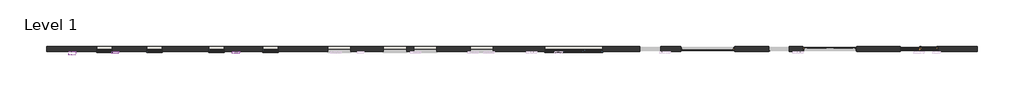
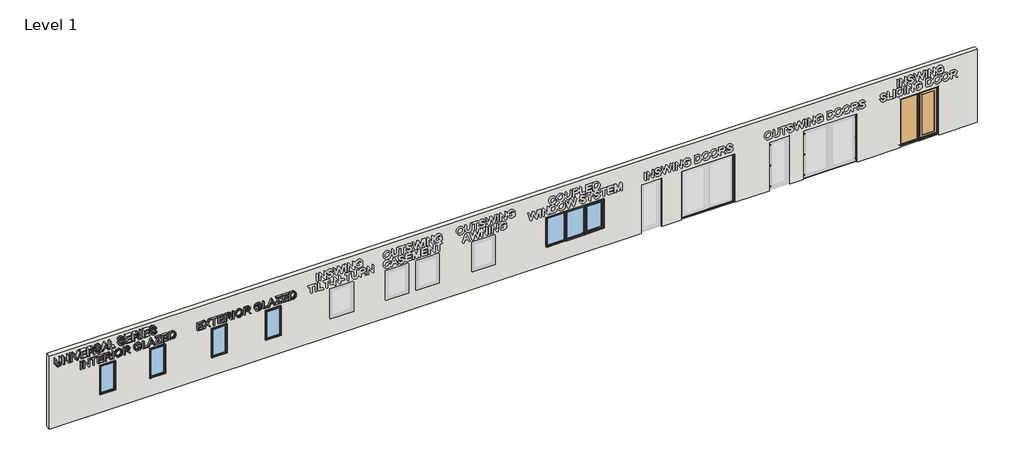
# One storey, part 1 of 4: 7 windows, 5 doors, 3 proxies, 1 wall.
"""IFC4 building model written with IfcOpenShell, lengths in millimetres."""

from ifc_helpers import new_model, si_unit, frame, origin, place, context, project, spatial, polyline, outline, extrude, transform, mapped, element, save
from components import double_door_frame_default_26f9a6da, universal_series_outswing_double_door_universal_double_door_7408c8ae, universal_series_outswing_single_door_a2d1e6a4, universal_series_sliding_door_7e6a51d2, universal_series_sliding_door_d04591d3, universal_series_sliding_door_3838186a, interior_glazed_black_34a4a2d6, universal_series_exterior_glazed_double_glazing_exterior_db7a54f3, universal_series_exterior_glazed_triple_glazing_exterior_8804a1f0, universal_series_interior_glazed_double_glazing_interior_bd5611e1, universal_series_interior_glazed_one_sided_coupler_interior_eb198598, universal_series_interior_glazed_triple_glazing_interior_81d28812, universal_series_interior_glazed_two_sided_coupler_interior_26a44fa0

model = new_model("IFC4")

# Units and contexts
model_context = context("Model", 3, world=origin())
ifc_project = project(units=[si_unit("LENGTHUNIT", "METRE", prefix="MILLI")], contexts=[model_context])

# Site, building, storey
site = spatial("IfcSite", under=ifc_project)
building = spatial("IfcBuilding", under=site)
storey = spatial("IfcBuildingStorey", under=building, Name="Level 1", Elevation=0.0)

# Proxies
placement = place(None, origin())
element("IfcBuildingElementProxy", 1, Name="600mm Arial", ObjectType="600mm Arial", at=placement, inside=storey, context=model_context, shape_type="SweptSolid", body=[
    extrude(outline(polyline([(2922.4101366, -22801.7087355), (2747.984752, -22801.7087355), (2700.3071968, -22805.8401248), (2683.3724946, -22811.8063287), (2671.0405095, -22820.1940216), (2662.2550166, -22831.4182146), (2655.959791, -22845.8939187), (2650.8401419, -22884.5998604), (2653.2931117, -22909.0338646), (2660.8149317, -22929.393801), (2673.0079357, -22945.0278173), (2689.4744578, -22955.2840613), (2713.2792011, -22960.9898965), (2747.4868687, -22962.9726866), (2921.8536788, -22962.9726866), (2921.8536788, -23001.5799447), (2746.0312964, -23001.5799447), (2702.8109784, -22998.0156296), (2669.8139275, -22989.2421434), (2645.2399934, -22973.7373337), (2627.2890255, -22950.5197183), (2616.3421312, -22919.5811753), (2612.7804181, -22880.9135827), (2617.1310746, -22841.405931), (2629.9139675, -22810.3266299), (2649.4097662, -22787.6146208), (2673.8991403, -22773.2088447), (2705.6083056, -22765.5546435), (2746.7634777, -22763.0973589), (2922.4687111, -22763.0973589), (2922.4101366, -22801.7087355)])), frame((0.0, 4073.3439366, 0.0), z_axis=(0.0, 1.0, 0.0), x_axis=(0.0, 0.0, 1.0)), (0.0, 0.0, 1.0), 152.4),
    extrude(outline(polyline([(2618.1080698, -22696.5456965), (2618.1080698, -22658.006394), (2859.5875495, -22658.006394), (2618.714865, -22498.8827378), (2618.714865, -22458.1351848), (2923.4059032, -22458.1351848), (2923.4059032, -22497.1430834), (2682.0007803, -22497.1430834), (2922.7991079, -22656.2667395), (2922.7991079, -22697.0142926), (2618.1080698, -22696.5456965)])), frame((0.0, 4073.3439366, 0.0), z_axis=(0.0, 1.0, 0.0), x_axis=(0.0, 0.0, 1.0)), (0.0, 0.0, 1.0), 152.4),
    extrude(outline(polyline([(2619.0599055, -22387.2212061), (2619.0599055, -22348.6819035), (2923.7427066, -22348.6819035), (2923.7427066, -22387.6898021), (2619.0599055, -22387.2212061)])), frame((0.0, 4073.3439366, 0.0), z_axis=(0.0, 1.0, 0.0), x_axis=(0.0, 0.0, 1.0)), (0.0, 0.0, 1.0), 152.4),
    extrude(outline(polyline([(2619.6882086, -22182.5687036), (2619.6882086, -22143.2339307), (2924.7320666, -22028.100082), (2924.7320666, -22068.8476351), (2704.9293057, -22149.518819), (2655.4321215, -22165.5764556), (2704.8288595, -22182.1614756), (2924.0062919, -22263.960006), (2924.0062919, -22304.707559), (2619.6882086, -22182.5687036)])), frame((0.0, 4073.3439366, 0.0), z_axis=(0.0, 1.0, 0.0), x_axis=(0.0, 0.0, 1.0)), (0.0, 0.0, 1.0), 152.4),
    extrude(outline(polyline([(2620.2753265, -21992.237626), (2620.2753265, -21768.1036292), (2659.0342834, -21768.1036292), (2659.0342834, -21953.8154724), (2758.3987866, -21953.8154724), (2758.3987866, -21782.8048093), (2796.9966637, -21782.8048093), (2796.9966637, -21954.2401376), (2886.8874211, -21954.2401376), (2886.8874211, -21773.6825106), (2925.5145854, -21773.6825106), (2925.5145854, -21992.706222), (2620.2753265, -21992.237626)])), frame((0.0, 4073.3439366, 0.0), z_axis=(0.0, 1.0, 0.0), x_axis=(0.0, 0.0, 1.0)), (0.0, 0.0, 1.0), 152.4),
    extrude(outline(polyline([(2621.1393004, -21711.4661654), (2621.1393004, -21672.9268629), (2754.5039222, -21672.9268629), (2754.5039222, -21627.3843519), (2753.3748571, -21605.2962494), (2746.1807787, -21587.1680481), (2726.5009276, -21566.9937723), (2684.8004692, -21538.2377962), (2621.7934587, -21498.411339), (2621.7934587, -21454.1690141), (2704.3094257, -21505.2087171), (2743.4005302, -21536.1873904), (2759.6180973, -21557.8753421), (2769.8274439, -21520.402667), (2777.9724176, -21505.8931524), (2788.1442584, -21494.2015197), (2813.0642446, -21478.8025364), (2843.0831065, -21473.7363535), (2867.193028, -21476.9242657), (2889.1088492, -21486.3328714), (2906.7609902, -21500.9426805), (2918.0798716, -21519.734203), (2924.1632285, -21545.4155727), (2926.1087963, -21580.6949236), (2926.1087963, -21711.9347615), (2621.1393004, -21711.4661654)]), holes=[polyline([(2792.705735, -21673.4540334), (2887.7513951, -21673.4540334), (2887.7513951, -21578.9419239), (2884.8455283, -21548.8079809), (2875.0385795, -21528.0041622), (2860.1114162, -21515.8844216), (2841.5531774, -21511.8027127), (2828.09739, -21513.8712028), (2815.6882029, -21520.1627047), (2805.4135713, -21530.5225562), (2798.3614502, -21544.7960953), (2794.2598651, -21563.7725341), (2792.8368412, -21588.2410848), (2792.705735, -21673.4540334)])]), frame((0.0, 4073.3439366, 0.0), z_axis=(0.0, 1.0, 0.0), x_axis=(0.0, 0.0, 1.0)), (0.0, 0.0, 1.0), 152.4),
    extrude(outline(polyline([(2726.7855791, -21421.030592), (2695.9943476, -21416.4188019), (2668.6305152, -21404.4188016), (2646.1946843, -21385.7882592), (2630.2460322, -21361.2848428), (2620.7484673, -21330.5552428), (2617.6658979, -21293.24615), (2620.7243734, -21262.8712063), (2629.7030261, -21235.6932653), (2644.011977, -21213.1140106), (2663.0613473, -21196.5351258), (2685.1675263, -21186.3696915), (2708.6469032, -21183.0307882), (2731.5954565, -21186.0664116), (2751.6630239, -21195.0231846), (2768.6627407, -21210.2165518), (2782.4077424, -21231.9619579), (2791.2338375, -21257.3822213), (2801.3101536, -21299.3880661), (2811.929561, -21340.0943248), (2822.38493, -21361.6158302), (2834.1239297, -21370.7421637), (2848.7443158, -21373.8172229), (2865.915315, -21369.5945013), (2880.398602, -21356.8123906), (2890.2819476, -21334.6656629), (2893.6531227, -21302.3490905), (2890.4414285, -21270.7558371), (2880.5848613, -21247.9535065), (2864.2340222, -21233.3291123), (2841.5395128, -21226.2696681), (2841.5395128, -21188.1989616), (2866.8690091, -21192.5706923), (2889.272954, -21203.4400669), (2907.716709, -21220.5618794), (2921.0484865, -21243.6909233), (2929.1040725, -21271.8228664), (2931.719253, -21303.9533765), (2929.0348213, -21333.5951902), (2921.1728084, -21360.3583061), (2908.3147598, -21382.6353005), (2890.642221, -21398.8187502), (2869.8197273, -21408.6535256), (2847.511814, -21411.8844974), (2827.5737978, -21409.155568), (2809.6970118, -21401.097827), (2794.2163479, -21387.6193578), (2781.4666978, -21368.6282441), (2772.3831559, -21345.317084), (2762.8752109, -21308.8990993), (2748.5090223, -21253.4213369), (2740.667896, -21237.1500834), (2731.3006797, -21227.4919561), (2720.3011579, -21222.717815), (2707.5631151, -21221.0985202), (2694.479112, -21223.1681544), (2681.9955681, -21229.4594274), (2671.1067202, -21240.0683456), (2662.8068052, -21255.0909153), (2657.5353868, -21273.6454932), (2655.7320283, -21294.8504359), (2657.9536627, -21318.9491193), (2664.7746118, -21340.5337986), (2675.3347676, -21358.2076231), (2688.7740217, -21370.573742), (2705.7309563, -21378.5264109), (2726.8441536, -21382.9598855), (2726.7855791, -21421.030592)])), frame((0.0, 4073.3439366, 0.0), z_axis=(0.0, 1.0, 0.0), x_axis=(0.0, 0.0, 1.0)), (0.0, 0.0, 1.0), 152.4),
    extrude(outline(polyline([(2622.8313257, -21161.1286735), (2622.8313257, -21120.9016184), (2718.2389579, -21086.3954857), (2718.2389579, -20960.955482), (2623.5554988, -20925.7892475), (2623.5554988, -20885.5621923), (2927.8708364, -21008.072832), (2927.8708364, -21040.492418), (2622.8313257, -21161.1286735)]), holes=[polyline([(2756.5027773, -21072.5335472), (2837.8651808, -21042.9669942), (2889.7502501, -21024.165476), (2831.4457914, -21002.6454472), (2756.6528744, -20974.9773617), (2756.5027773, -21072.5335472)])]), frame((0.0, 4073.3439366, 0.0), z_axis=(0.0, 1.0, 0.0), x_axis=(0.0, 0.0, 1.0)), (0.0, 0.0, 1.0), 152.4),
    extrude(outline(polyline([(2623.8044404, -20845.3575922), (2623.8044404, -20654.5354635), (2662.460892, -20654.5354635), (2662.460892, -20806.9354386), (2928.4872416, -20806.9354386), (2928.4872416, -20845.8261882), (2623.8044404, -20845.3575922)])), frame((0.0, 4073.3439366, 0.0), z_axis=(0.0, 1.0, 0.0), x_axis=(0.0, 0.0, 1.0)), (0.0, 0.0, 1.0), 152.4),
    extrude(outline(polyline([(2729.5971553, -20507.3336356), (2698.8059239, -20502.7218455), (2671.4420915, -20490.7218452), (2649.0062606, -20472.0913028), (2633.0576085, -20447.5878864), (2623.5600436, -20416.8582864), (2620.4774742, -20379.5491935), (2623.5359497, -20349.1742499), (2632.5146023, -20321.9963089), (2646.8235533, -20299.4170542), (2665.8729236, -20282.8381694), (2687.9791026, -20272.6727351), (2711.4584794, -20269.3338318), (2734.4070328, -20272.3694551), (2754.4746002, -20281.3262282), (2771.474317, -20296.5195954), (2785.2193187, -20318.2650015), (2794.0454138, -20343.6852649), (2804.1217299, -20385.6911097), (2814.7411373, -20426.3973684), (2825.1965063, -20447.9188738), (2836.935506, -20457.0452072), (2851.5558921, -20460.1202665), (2868.7268913, -20455.8975449), (2883.2101783, -20443.1154342), (2893.0935239, -20420.9687065), (2896.4646989, -20388.6521341), (2893.2530048, -20357.0588807), (2883.3964375, -20334.2565501), (2867.0455985, -20319.6321559), (2844.3510891, -20312.5727117), (2844.3510891, -20274.5020052), (2869.6805854, -20278.8737359), (2892.0845303, -20289.7431105), (2910.5282853, -20306.864923), (2923.8600628, -20329.9939669), (2931.9156488, -20358.12591), (2934.5308293, -20390.2564201), (2931.8463976, -20419.8982338), (2923.9843847, -20446.6613497), (2911.1263361, -20468.9383441), (2893.4537973, -20485.1217938), (2872.6313036, -20494.9565692), (2850.3233903, -20498.187541), (2830.3853741, -20495.4586116), (2812.5085881, -20487.4008706), (2797.0279242, -20473.9224014), (2784.2782741, -20454.9312877), (2775.1947322, -20431.6201276), (2765.6867871, -20395.2021429), (2751.3205986, -20339.7243805), (2743.4794723, -20323.453127), (2734.112256, -20313.7949996), (2723.1127342, -20309.0208586), (2710.3746914, -20307.4015638), (2697.2906883, -20309.471198), (2684.8071443, -20315.762471), (2673.9182965, -20326.3713892), (2665.6183815, -20341.3939589), (2660.346963, -20359.9485368), (2658.5436046, -20381.1534795), (2660.7652389, -20405.2521629), (2667.5861881, -20426.8368422), (2678.1463439, -20444.5106667), (2691.585598, -20456.8767856), (2708.5425326, -20464.8294545), (2729.6557298, -20469.2629291), (2729.5971553, -20507.3336356)])), frame((0.0, 4073.3439366, 0.0), z_axis=(0.0, 1.0, 0.0), x_axis=(0.0, 0.0, 1.0)), (0.0, 0.0, 1.0), 152.4),
    extrude(outline(polyline([(2625.7520428, -20212.4320963), (2625.7520428, -19988.2980995), (2664.5109997, -19988.2980995), (2664.5109997, -20174.0099428), (2763.8755029, -20174.0099428), (2763.8755029, -20002.9992796), (2802.47338, -20002.9992796), (2802.47338, -20174.4346079), (2892.3641374, -20174.4346079), (2892.3641374, -19993.8769809), (2930.9913017, -19993.8769809), (2930.9913017, -20212.9006924), (2625.7520428, -20212.4320963)])), frame((0.0, 4073.3439366, 0.0), z_axis=(0.0, 1.0, 0.0), x_axis=(0.0, 0.0, 1.0)), (0.0, 0.0, 1.0), 152.4),
    extrude(outline(polyline([(2626.6160167, -19931.6606358), (2626.6160167, -19893.1213332), (2759.9806385, -19893.1213332), (2759.9806385, -19847.5788223), (2758.8515734, -19825.4907197), (2751.657495, -19807.3625184), (2731.9776439, -19787.1882427), (2690.2771855, -19758.4322666), (2627.270175, -19718.6058094), (2627.270175, -19674.3634844), (2709.786142, -19725.4031875), (2748.8772465, -19756.3818608), (2765.0948136, -19778.0698124), (2775.3041602, -19740.5971373), (2783.4491339, -19726.0876227), (2793.6209747, -19714.39599), (2818.5409609, -19698.9970067), (2848.5598228, -19693.9308238), (2872.6697443, -19697.118736), (2894.5855655, -19706.5273417), (2912.2377065, -19721.1371508), (2923.5565879, -19739.9286733), (2929.6399448, -19765.610043), (2931.5855126, -19800.8893939), (2931.5855126, -19932.1292318), (2626.6160167, -19931.6606358)]), holes=[polyline([(2798.1824513, -19893.6485038), (2893.2281113, -19893.6485038), (2893.2281113, -19799.1363942), (2890.3222446, -19769.0024512), (2880.5152958, -19748.1986325), (2865.5881325, -19736.0788919), (2847.0298937, -19731.997183), (2833.5741063, -19734.0656732), (2821.1649192, -19740.357175), (2810.8902876, -19750.7170265), (2803.8381665, -19764.9905656), (2799.7365814, -19783.9670045), (2798.3135575, -19808.4355552), (2798.1824513, -19893.6485038)])]), frame((0.0, 4073.3439366, 0.0), z_axis=(0.0, 1.0, 0.0), x_axis=(0.0, 0.0, 1.0)), (0.0, 0.0, 1.0), 152.4),
    extrude(outline(polyline([(2627.5678524, -19622.3361453), (2627.5678524, -19583.7968428), (2932.2506536, -19583.7968428), (2932.2506536, -19622.8047414), (2627.5678524, -19622.3361453)])), frame((0.0, 4073.3439366, 0.0), z_axis=(0.0, 1.0, 0.0), x_axis=(0.0, 0.0, 1.0)), (0.0, 0.0, 1.0), 152.4),
    extrude(outline(polyline([(2627.9192995, -19508.1240258), (2627.9192995, -19283.9900289), (2666.6782564, -19283.9900289), (2666.6782564, -19469.7018722), (2766.0427596, -19469.7018722), (2766.0427596, -19298.691209), (2804.6406367, -19298.691209), (2804.6406367, -19470.1265374), (2894.5313941, -19470.1265374), (2894.5313941, -19289.5689103), (2933.1585584, -19289.5689103), (2933.1585584, -19508.5926218), (2627.9192995, -19508.1240258)])), frame((0.0, 4073.3439366, 0.0), z_axis=(0.0, 1.0, 0.0), x_axis=(0.0, 0.0, 1.0)), (0.0, 0.0, 1.0), 152.4),
    extrude(outline(polyline([(2733.49236, -19241.4826439), (2702.7011286, -19236.8708538), (2675.3372961, -19224.8708535), (2652.9014652, -19206.2403112), (2636.9528131, -19181.7368947), (2627.4552482, -19151.0072948), (2624.3726789, -19113.6982019), (2627.4311543, -19083.3232582), (2636.409807, -19056.1453172), (2650.7187579, -19033.5660625), (2669.7681283, -19016.9871777), (2691.8743072, -19006.8217434), (2715.3536841, -19003.4828401), (2738.3022374, -19006.5184635), (2758.3698048, -19015.4752365), (2775.3695216, -19030.6686037), (2789.1145233, -19052.4140098), (2797.9406184, -19077.8342732), (2808.0169346, -19119.840118), (2818.6363419, -19160.5463768), (2829.0917109, -19182.0678822), (2840.8307106, -19191.1942156), (2855.4510967, -19194.2692749), (2872.6220959, -19190.0465532), (2887.1053829, -19177.2644425), (2896.9887285, -19155.1177149), (2900.3599036, -19122.8011424), (2897.1482094, -19091.207889), (2887.2916422, -19068.4055584), (2870.9408031, -19053.7811642), (2848.2462937, -19046.72172), (2848.2462937, -19008.6510135), (2873.57579, -19013.0227442), (2895.979735, -19023.8921189), (2914.4234899, -19041.0139313), (2927.7552674, -19064.1429752), (2935.8108534, -19092.2749183), (2938.4260339, -19124.4054284), (2935.7416022, -19154.0472422), (2927.8795893, -19180.810358), (2915.0215407, -19203.0873524), (2897.3490019, -19219.2708021), (2876.5265082, -19229.1055775), (2854.218595, -19232.3365493), (2834.2805787, -19229.6076199), (2816.4037927, -19221.5498789), (2800.9231288, -19208.0714097), (2788.1734787, -19189.080296), (2779.0899368, -19165.7691359), (2769.5819918, -19129.3511512), (2755.2158032, -19073.8733888), (2747.3746769, -19057.6021353), (2738.0074606, -19047.944008), (2727.0079388, -19043.1698669), (2714.269896, -19041.5505721), (2701.1858929, -19043.6202063), (2688.702349, -19049.9114793), (2677.8135011, -19060.5203975), (2669.5135862, -19075.5429672), (2664.2421677, -19094.0975451), (2662.4388092, -19115.3024878), (2664.6604436, -19139.4011712), (2671.4813928, -19160.9858505), (2682.0415485, -19178.659675), (2695.4808026, -19191.0257939), (2712.4377372, -19198.9784628), (2733.5509345, -19203.4119374), (2733.49236, -19241.4826439)])), frame((0.0, 4073.3439366, 0.0), z_axis=(0.0, 1.0, 0.0), x_axis=(0.0, 0.0, 1.0)), (0.0, 0.0, 1.0), 152.4),
])
element("IfcBuildingElementProxy", 2, Name="600mm Arial", ObjectType="600mm Arial", at=placement, inside=storey, context=model_context, shape_type="SweptSolid", body=[
    extrude(outline(polyline([(2116.1273005, -21969.0309154), (2116.1273005, -21930.4916129), (2420.8101017, -21930.4916129), (2420.8101017, -21969.4995115), (2116.1273005, -21969.0309154)])), frame((0.0, 4149.5439366, 0.0), z_axis=(0.0, 1.0, 0.0), x_axis=(0.0, 0.0, 1.0)), (0.0, 0.0, 1.0), 76.2),
    extrude(outline(polyline([(2116.4787475, -21854.8187959), (2116.4787475, -21816.2794933), (2357.9582273, -21816.2794933), (2117.0855428, -21657.1558372), (2117.0855428, -21616.4082841), (2421.776581, -21616.4082841), (2421.776581, -21655.4161827), (2180.3714581, -21655.4161827), (2421.1697857, -21814.5398389), (2421.1697857, -21855.2873919), (2116.4787475, -21854.8187959)])), frame((0.0, 4149.5439366, 0.0), z_axis=(0.0, 1.0, 0.0), x_axis=(0.0, 0.0, 1.0)), (0.0, 0.0, 1.0), 76.2),
    extrude(outline(polyline([(2117.6502377, -21474.0531562), (2117.6502377, -21435.5724282), (2384.2623323, -21435.5724282), (2384.2623323, -21336.4568666), (2422.640555, -21336.4568666), (2422.640555, -21574.5159314), (2383.8376671, -21574.5159314), (2383.8376671, -21474.4631778), (2117.6502377, -21474.0531562)])), frame((0.0, 4149.5439366, 0.0), z_axis=(0.0, 1.0, 0.0), x_axis=(0.0, 0.0, 1.0)), (0.0, 0.0, 1.0), 76.2),
    extrude(outline(polyline([(2118.2066955, -21293.2758748), (2118.2066955, -21069.1418779), (2156.9656524, -21069.1418779), (2156.9656524, -21254.8537212), (2256.3301556, -21254.8537212), (2256.3301556, -21083.8430581), (2294.9280327, -21083.8430581), (2294.9280327, -21255.2783864), (2384.8187901, -21255.2783864), (2384.8187901, -21074.7207593), (2423.4459544, -21074.7207593), (2423.4459544, -21293.7444708), (2118.2066955, -21293.2758748)])), frame((0.0, 4149.5439366, 0.0), z_axis=(0.0, 1.0, 0.0), x_axis=(0.0, 0.0, 1.0)), (0.0, 0.0, 1.0), 76.2),
    extrude(outline(polyline([(2119.0706694, -21012.5044142), (2119.0706694, -20973.9651117), (2252.4352912, -20973.9651117), (2252.4352912, -20928.4226007), (2251.3062261, -20906.3344981), (2244.1121477, -20888.2062968), (2224.4322966, -20868.0320211), (2182.7318382, -20839.276045), (2119.7248277, -20799.4495878), (2119.7248277, -20755.2072629), (2202.2407947, -20806.2469659), (2241.3318992, -20837.2256392), (2257.5494663, -20858.9135908), (2267.7588129, -20821.4409158), (2275.9037866, -20806.9314012), (2286.0756274, -20795.2397684), (2310.9956136, -20779.8407851), (2341.0144755, -20774.7746023), (2365.124397, -20777.9625145), (2387.0402182, -20787.3711201), (2404.6923592, -20801.9809293), (2416.0112406, -20820.7724517), (2422.0945975, -20846.4538215), (2424.0401653, -20881.7331724), (2424.0401653, -21012.9730103), (2119.0706694, -21012.5044142)]), holes=[polyline([(2290.637104, -20974.4922822), (2385.6827641, -20974.4922822), (2385.6827641, -20879.9801727), (2382.7768973, -20849.8462297), (2372.9699485, -20829.042411), (2358.0427852, -20816.9226703), (2339.4845464, -20812.8409615), (2326.028759, -20814.9094516), (2313.6195719, -20821.2009535), (2303.3449403, -20831.5608049), (2296.2928192, -20845.8343441), (2292.1912341, -20864.8107829), (2290.7682102, -20889.2793336), (2290.637104, -20974.4922822)])]), frame((0.0, 4149.5439366, 0.0), z_axis=(0.0, 1.0, 0.0), x_axis=(0.0, 0.0, 1.0)), (0.0, 0.0, 1.0), 76.2),
    extrude(outline(polyline([(2120.0225051, -20703.1799238), (2120.0225051, -20664.6406212), (2424.7053063, -20664.6406212), (2424.7053063, -20703.6485198), (2120.0225051, -20703.1799238)])), frame((0.0, 4149.5439366, 0.0), z_axis=(0.0, 1.0, 0.0), x_axis=(0.0, 0.0, 1.0)), (0.0, 0.0, 1.0), 76.2),
    extrude(outline(polyline([(2268.5975775, -20603.2319636), (2229.6572686, -20598.7622219), (2192.8443111, -20585.5991926), (2160.8812236, -20564.0115049), (2136.4905251, -20534.2677877), (2121.0700951, -20498.1941025), (2116.0178136, -20457.6165109), (2120.8198731, -20419.4208001), (2134.9826013, -20383.9493547), (2158.2379411, -20353.7388014), (2190.3178357, -20331.3257667), (2229.2308654, -20317.4755824), (2272.9856106, -20312.9535803), (2316.1361473, -20317.5106351), (2354.4262608, -20330.9012824), (2386.314305, -20352.7118119), (2410.2586336, -20382.5285131), (2425.2056679, -20418.3962583), (2430.1018288, -20458.3599197), (2427.3354327, -20488.9634821), (2419.2337046, -20516.6042089), (2405.7966444, -20541.2821001), (2387.0242522, -20562.9971556), (2363.5425414, -20580.6870595), (2335.9775253, -20593.2894954), (2304.329204, -20600.8044634), (2268.5975775, -20603.2319636)]), holes=[polyline([(2268.3429423, -20565.160113), (2299.2094644, -20563.2706766), (2325.3340081, -20557.397814), (2346.7165733, -20547.5415252), (2363.3571601, -20533.7018104), (2375.8515238, -20517.0981075), (2384.7954198, -20498.9498549), (2390.1888481, -20479.2570524), (2392.0318087, -20458.0197001), (2388.4325433, -20428.5351497), (2377.4439224, -20402.0951102), (2359.7306959, -20380.1515995), (2335.9576138, -20364.1566354), (2306.8581776, -20354.3634316), (2273.165889, -20351.0252021), (2246.34049, -20352.831803), (2222.7472824, -20358.4266431), (2202.386266, -20367.8097222), (2185.2574408, -20380.9810404), (2171.6747933, -20397.0910993), (2161.9523096, -20415.2904006), (2156.0899897, -20435.5789443), (2154.0878337, -20457.9567304), (2155.9348029, -20479.9699258), (2161.6171131, -20500.0569793), (2171.1347643, -20518.2178909), (2184.4877565, -20534.4526608), (2201.1817026, -20547.8256508), (2220.7222156, -20557.4012228), (2243.1092955, -20563.1793769), (2268.3429423, -20565.160113)])]), frame((0.0, 4149.5439366, 0.0), z_axis=(0.0, 1.0, 0.0), x_axis=(0.0, 0.0, 1.0)), (0.0, 0.0, 1.0), 76.2),
    extrude(outline(polyline([(2121.3843624, -20260.6079605), (2121.3843624, -20222.0686579), (2254.7489842, -20222.0686579), (2254.7489842, -20176.526147), (2253.619919, -20154.4380444), (2246.4258407, -20136.3098431), (2226.7459896, -20116.1355674), (2185.0455312, -20087.3795913), (2122.0385206, -20047.5531341), (2122.0385206, -20003.3108092), (2204.5544877, -20054.3505122), (2243.6455922, -20085.3291855), (2259.8631593, -20107.0171371), (2270.0725058, -20069.5444621), (2278.2174796, -20055.0349475), (2288.3893203, -20043.3433147), (2313.3093066, -20027.9443314), (2343.3281685, -20022.8781486), (2367.43809, -20026.0660608), (2389.3539111, -20035.4746664), (2407.0060522, -20050.0844755), (2418.3249336, -20068.875998), (2424.4082905, -20094.5573678), (2426.3538583, -20129.8367187), (2426.3538583, -20261.0765566), (2121.3843624, -20260.6079605)]), holes=[polyline([(2292.950797, -20222.5958285), (2387.996457, -20222.5958285), (2387.996457, -20128.083719), (2385.0905903, -20097.949776), (2375.2836415, -20077.1459573), (2360.3564782, -20065.0262166), (2341.7982394, -20060.9445077), (2328.342452, -20063.0129979), (2315.9332649, -20069.3044998), (2305.6586333, -20079.6643512), (2298.6065122, -20093.9378904), (2294.504927, -20112.9143292), (2293.0819032, -20137.3828799), (2292.950797, -20222.5958285)])]), frame((0.0, 4149.5439366, 0.0), z_axis=(0.0, 1.0, 0.0), x_axis=(0.0, 0.0, 1.0)), (0.0, 0.0, 1.0), 76.2),
    extrude(outline(polyline([(2242.0979118, -19694.2622702), (2242.0979118, -19608.544606), (2187.3374291, -19608.544606), (2176.5336614, -19624.5612855), (2166.3616968, -19646.8651349), (2158.9491141, -19672.5607438), (2156.4234921, -19698.9220193), (2159.5754151, -19728.7955703), (2169.2201786, -19756.9974664), (2185.5603768, -19781.1210052), (2208.798604, -19798.7594844), (2238.7220855, -19809.5869349), (2275.1180462, -19813.2773877), (2306.1711828, -19810.3986406), (2334.9375616, -19801.5642525), (2364.3316289, -19782.0614871), (2376.440931, -19767.5060794), (2385.9971628, -19748.9646865), (2392.2286149, -19726.518586), (2394.3635774, -19700.2490554), (2392.5272541, -19677.7967185), (2386.8736786, -19657.4332363), (2378.0405463, -19640.3409971), (2366.6655528, -19627.7023895), (2351.5539553, -19618.1288275), (2331.5110113, -19610.2317253), (2341.5084689, -19575.1657241), (2369.6134109, -19584.9465729), (2391.8144182, -19598.3341852), (2408.9354505, -19616.3906915), (2421.800467, -19640.1782225), (2429.8278832, -19668.4030258), (2432.4361143, -19699.7713496), (2427.6387727, -19742.4750015), (2413.5258918, -19779.870602), (2402.9098322, -19796.2221569), (2389.832304, -19810.5352468), (2356.2928416, -19833.0460318), (2316.3482823, -19846.8372737), (2273.4394034, -19851.3432893), (2230.8658473, -19846.5556427), (2192.5221112, -19832.4677283), (2160.5918842, -19809.2628649), (2137.2588551, -19777.1243712), (2123.017468, -19738.4796838), (2118.3621667, -19695.7562395), (2121.4742082, -19663.0763765), (2130.6066947, -19631.2143831), (2145.7036299, -19600.2444443), (2166.7090173, -19570.2407455), (2280.5493526, -19570.2407455), (2280.5493526, -19694.3208447), (2242.0979118, -19694.2622702)])), frame((0.0, 4149.5439366, 0.0), z_axis=(0.0, 1.0, 0.0), x_axis=(0.0, 0.0, 1.0)), (0.0, 0.0, 1.0), 76.2),
    extrude(outline(polyline([(2123.6980554, -19508.7115068), (2123.6980554, -19317.8893782), (2162.354507, -19317.8893782), (2162.354507, -19470.2893532), (2428.3808565, -19470.2893532), (2428.3808565, -19509.1801028), (2123.6980554, -19508.7115068)])), frame((0.0, 4149.5439366, 0.0), z_axis=(0.0, 1.0, 0.0), x_axis=(0.0, 0.0, 1.0)), (0.0, 0.0, 1.0), 76.2),
    extrude(outline(polyline([(2124.3064523, -19310.5280502), (2124.3064523, -19270.300995), (2219.7140845, -19235.7948624), (2219.7140845, -19110.3548587), (2125.0306254, -19075.1886241), (2125.0306254, -19034.961569), (2429.345963, -19157.4722087), (2429.345963, -19189.8917947), (2124.3064523, -19310.5280502)]), holes=[polyline([(2257.9779039, -19221.9329238), (2339.3403074, -19192.3663708), (2391.2253767, -19173.5648527), (2332.920918, -19152.0448239), (2258.128001, -19124.3767384), (2257.9779039, -19221.9329238)])]), frame((0.0, 4149.5439366, 0.0), z_axis=(0.0, 1.0, 0.0), x_axis=(0.0, 0.0, 1.0)), (0.0, 0.0, 1.0), 76.2),
    extrude(outline(polyline([(2125.2063489, -19018.1433125), (2125.2063489, -18780.1406486), (2164.0092367, -18780.1406486), (2164.0092367, -18971.5779692), (2183.1745043, -18955.5775237), (2392.4188322, -18785.71953), (2430.4895387, -18785.71953), (2430.4895387, -18999.9844032), (2391.759869, -18999.9844032), (2391.759869, -18833.5309837), (2355.8945023, -18863.0133518), (2164.6898355, -19018.2040607), (2125.2063489, -19018.1433125)])), frame((0.0, 4149.5439366, 0.0), z_axis=(0.0, 1.0, 0.0), x_axis=(0.0, 0.0, 1.0)), (0.0, 0.0, 1.0), 76.2),
    extrude(outline(polyline([(2126.0703229, -18737.7796998), (2126.0703229, -18513.645703), (2164.8292798, -18513.645703), (2164.8292798, -18699.3575463), (2264.193783, -18699.3575463), (2264.193783, -18528.3468831), (2302.7916601, -18528.3468831), (2302.7916601, -18699.7822114), (2392.6824175, -18699.7822114), (2392.6824175, -18519.2245844), (2431.3095818, -18519.2245844), (2431.3095818, -18738.2482959), (2126.0703229, -18737.7796998)])), frame((0.0, 4149.5439366, 0.0), z_axis=(0.0, 1.0, 0.0), x_axis=(0.0, 0.0, 1.0)), (0.0, 0.0, 1.0), 76.2),
    extrude(outline(polyline([(2126.9342968, -18457.0082393), (2126.9342968, -18346.4171504), (2132.6288081, -18297.469182), (2139.1121577, -18277.7379072), (2148.0211413, -18261.1185243), (2160.0093275, -18246.6556909), (2175.7302843, -18233.3940646), (2195.628437, -18221.8926946), (2220.1482104, -18212.7106301), (2248.9337212, -18206.7204773), (2281.6290858, -18204.7948423), (2320.0995455, -18207.906113), (2354.0158185, -18216.9891527), (2382.820114, -18232.0794239), (2405.9546413, -18253.2123889), (2419.2200702, -18273.7387143), (2427.6034564, -18298.0422522), (2431.8232528, -18352.4106082), (2431.8232528, -18457.4768353), (2126.9342968, -18457.0082393)]), holes=[polyline([(2165.2258018, -18418.5860857), (2393.5463915, -18418.5860857), (2393.5463915, -18352.9626708), (2392.3249017, -18320.873), (2387.819339, -18298.9608365), (2375.1705288, -18277.4046975), (2354.1829405, -18259.3362932), (2323.5854145, -18247.0567963), (2282.1067915, -18242.8673793), (2250.7868857, -18244.8437203), (2224.4919003, -18250.9809572), (2203.1302051, -18260.8512522), (2186.6101695, -18274.0267674), (2177.6680694, -18286.3054262), (2170.9826416, -18302.2345493), (2166.7907982, -18323.3577847), (2165.3294512, -18351.2187808), (2165.2258018, -18418.5860857)])]), frame((0.0, 4149.5439366, 0.0), z_axis=(0.0, 1.0, 0.0), x_axis=(0.0, 0.0, 1.0)), (0.0, 0.0, 1.0), 76.2),
])
element("IfcBuildingElementProxy", 3, Name="600mm Arial", ObjectType="600mm Arial", at=placement, inside=storey, context=model_context, shape_type="SweptSolid", body=[
    extrude(outline(polyline([(2116.1126569, -17350.9897538), (2116.1126569, -17126.8557569), (2154.8716138, -17126.8557569), (2154.8716138, -17312.5676002), (2254.236117, -17312.5676002), (2254.236117, -17141.556937), (2292.8339941, -17141.556937), (2292.8339941, -17312.9922654), (2382.7247515, -17312.9922654), (2382.7247515, -17132.4346383), (2421.3519158, -17132.4346383), (2421.3519158, -17351.4583498), (2116.1126569, -17350.9897538)])), frame((0.0, 4149.5439366, 0.0), z_axis=(0.0, 1.0, 0.0), x_axis=(0.0, 0.0, 1.0)), (0.0, 0.0, 1.0), 76.2),
    extrude(outline(polyline([(2116.8741255, -17103.0615654), (2116.8741255, -17056.7372486), (2225.3665144, -16980.7054499), (2250.5542717, -16962.8627861), (2227.7024709, -16946.5081638), (2117.5976121, -16867.9452099), (2117.5976121, -16822.2901048), (2282.8951588, -16940.2088925), (2422.245177, -16842.2626501), (2422.245177, -16888.5869669), (2344.4541637, -16943.1495478), (2313.4544455, -16964.9152777), (2343.8089661, -16983.6724287), (2421.6388394, -17039.3082991), (2421.6388394, -17084.9634042), (2283.1998974, -16986.1627978), (2116.8741255, -17103.0615654)])), frame((0.0, 4149.5439366, 0.0), z_axis=(0.0, 1.0, 0.0), x_axis=(0.0, 0.0, 1.0)), (0.0, 0.0, 1.0), 76.2),
    extrude(outline(polyline([(2118.0895464, -16708.4880068), (2118.0895464, -16670.0072787), (2384.7016411, -16670.0072787), (2384.7016411, -16570.8917172), (2423.0798638, -16570.8917172), (2423.0798638, -16808.9507819), (2384.2769759, -16808.9507819), (2384.2769759, -16708.8980283), (2118.0895464, -16708.4880068)])), frame((0.0, 4149.5439366, 0.0), z_axis=(0.0, 1.0, 0.0), x_axis=(0.0, 0.0, 1.0)), (0.0, 0.0, 1.0), 76.2),
    extrude(outline(polyline([(2118.6460043, -16527.7107253), (2118.6460043, -16303.5767285), (2157.4049612, -16303.5767285), (2157.4049612, -16489.2885718), (2256.7694644, -16489.2885718), (2256.7694644, -16318.2779086), (2295.3673415, -16318.2779086), (2295.3673415, -16489.713237), (2385.2580989, -16489.713237), (2385.2580989, -16309.1556099), (2423.8852632, -16309.1556099), (2423.8852632, -16528.1793214), (2118.6460043, -16527.7107253)])), frame((0.0, 4149.5439366, 0.0), z_axis=(0.0, 1.0, 0.0), x_axis=(0.0, 0.0, 1.0)), (0.0, 0.0, 1.0), 76.2),
    extrude(outline(polyline([(2119.5099782, -16246.9392648), (2119.5099782, -16208.3999622), (2252.8746, -16208.3999622), (2252.8746, -16162.8574513), (2251.7455349, -16140.7693487), (2244.5514565, -16122.6411474), (2224.8716054, -16102.4668717), (2183.171147, -16073.7108956), (2120.1641365, -16033.8844384), (2120.1641365, -15989.6421134), (2202.6801035, -16040.6818165), (2241.771208, -16071.6604898), (2257.9887751, -16093.3484414), (2268.1981217, -16055.8757664), (2276.3430954, -16041.3662517), (2286.5149362, -16029.674619), (2311.4349224, -16014.2756357), (2341.4537843, -16009.2094528), (2365.5637058, -16012.397365), (2387.4795269, -16021.8059707), (2405.131668, -16036.4157798), (2416.4505494, -16055.2073023), (2422.5339063, -16080.8886721), (2424.4794741, -16116.1680229), (2424.4794741, -16247.4078608), (2119.5099782, -16246.9392648)]), holes=[polyline([(2291.0764128, -16208.9271328), (2386.1220728, -16208.9271328), (2386.1220728, -16114.4150232), (2383.2162061, -16084.2810802), (2373.4092573, -16063.4772616), (2358.482094, -16051.3575209), (2339.9238552, -16047.275812), (2326.4680678, -16049.3443022), (2314.0588807, -16055.635804), (2303.7842491, -16065.9956555), (2296.732128, -16080.2691946), (2292.6305429, -16099.2456335), (2291.207519, -16123.7141842), (2291.0764128, -16208.9271328)])]), frame((0.0, 4149.5439366, 0.0), z_axis=(0.0, 1.0, 0.0), x_axis=(0.0, 0.0, 1.0)), (0.0, 0.0, 1.0), 76.2),
    extrude(outline(polyline([(2120.4618139, -15937.6147743), (2120.4618139, -15899.0754718), (2425.1446151, -15899.0754718), (2425.1446151, -15938.0833704), (2120.4618139, -15937.6147743)])), frame((0.0, 4149.5439366, 0.0), z_axis=(0.0, 1.0, 0.0), x_axis=(0.0, 0.0, 1.0)), (0.0, 0.0, 1.0), 76.2),
    extrude(outline(polyline([(2269.0368863, -15837.6668142), (2230.0965774, -15833.1970724), (2193.2836199, -15820.0340432), (2161.3205324, -15798.4463554), (2136.9298339, -15768.7026382), (2121.5094039, -15732.6289531), (2116.4571224, -15692.0513615), (2121.2591819, -15653.8556507), (2135.4219101, -15618.3842053), (2158.6772499, -15588.1736519), (2190.7571445, -15565.7606173), (2229.6701742, -15551.910433), (2273.4249194, -15547.3884309), (2316.5754561, -15551.9454856), (2354.8655696, -15565.336133), (2386.7536137, -15587.1466624), (2410.6979424, -15616.9633637), (2425.6449767, -15652.8311089), (2430.5411376, -15692.7947703), (2427.7747415, -15723.3983326), (2419.6730133, -15751.0390594), (2406.2359532, -15775.7169506), (2387.463561, -15797.4320062), (2363.9818502, -15815.12191), (2336.4168341, -15827.724346), (2304.7685128, -15835.239314), (2269.0368863, -15837.6668142)]), holes=[polyline([(2268.7822511, -15799.5949636), (2299.6487732, -15797.7055271), (2325.7733169, -15791.8326645), (2347.1558821, -15781.9763758), (2363.7964689, -15768.1366609), (2376.2908325, -15751.5329581), (2385.2347285, -15733.3847055), (2390.6281569, -15713.691903), (2392.4711175, -15692.4545507), (2388.8718521, -15662.9700003), (2377.8832312, -15636.5299608), (2360.1700047, -15614.5864501), (2336.3969226, -15598.5914859), (2307.2974864, -15588.7982822), (2273.6051978, -15585.4600526), (2246.7797988, -15587.2666536), (2223.1865912, -15592.8614937), (2202.8255747, -15602.2445728), (2185.6967496, -15615.4158909), (2172.1141021, -15631.5259498), (2162.3916184, -15649.7252512), (2156.5292985, -15670.0137949), (2154.5271425, -15692.391581), (2156.3741117, -15714.4047763), (2162.0564219, -15734.4918298), (2171.5740731, -15752.6527415), (2184.9270653, -15768.8875114), (2201.6210114, -15782.2605013), (2221.1615244, -15791.8360734), (2243.5486043, -15797.6142275), (2268.7822511, -15799.5949636)])]), frame((0.0, 4149.5439366, 0.0), z_axis=(0.0, 1.0, 0.0), x_axis=(0.0, 0.0, 1.0)), (0.0, 0.0, 1.0), 76.2),
    extrude(outline(polyline([(2121.8236712, -15495.0428111), (2121.8236712, -15456.5035085), (2255.188293, -15456.5035085), (2255.188293, -15410.9609976), (2254.0592278, -15388.872895), (2246.8651495, -15370.7446937), (2227.1852984, -15350.570418), (2185.48484, -15321.8144419), (2122.4778294, -15281.9879847), (2122.4778294, -15237.7456597), (2204.9937965, -15288.7853628), (2244.084901, -15319.7640361), (2260.3024681, -15341.4519877), (2270.5118146, -15303.9793127), (2278.6567884, -15289.469798), (2288.8286291, -15277.7781653), (2313.7486154, -15262.379182), (2343.7674773, -15257.3129991), (2367.8773988, -15260.5009113), (2389.7932199, -15269.909517), (2407.445361, -15284.5193261), (2418.7642424, -15303.3108486), (2424.8475993, -15328.9922184), (2426.7931671, -15364.2715692), (2426.7931671, -15495.5114071), (2121.8236712, -15495.0428111)]), holes=[polyline([(2293.3901057, -15457.0306791), (2388.4357658, -15457.0306791), (2388.4357658, -15362.5185695), (2385.5298991, -15332.3846265), (2375.7229503, -15311.5808078), (2360.795787, -15299.4610672), (2342.2375482, -15295.3793583), (2328.7817608, -15297.4478485), (2316.3725737, -15303.7393503), (2306.0979421, -15314.0992018), (2299.045821, -15328.3727409), (2294.9442358, -15347.3491798), (2293.521212, -15371.8177305), (2293.3901057, -15457.0306791)])]), frame((0.0, 4149.5439366, 0.0), z_axis=(0.0, 1.0, 0.0), x_axis=(0.0, 0.0, 1.0)), (0.0, 0.0, 1.0), 76.2),
    extrude(outline(polyline([(2242.5372206, -14928.6971208), (2242.5372206, -14842.9794566), (2187.7767379, -14842.9794566), (2176.9729702, -14858.9961361), (2166.8010056, -14881.2999854), (2159.3884229, -14906.9955944), (2156.8628009, -14933.3568698), (2160.0147239, -14963.2304209), (2169.6594874, -14991.432317), (2185.9996856, -15015.5558558), (2209.2379128, -15033.194335), (2239.1613943, -15044.0217855), (2275.557355, -15047.7122383), (2306.6104916, -15044.8334911), (2335.3768704, -15035.9991031), (2364.7709377, -15016.4963377), (2376.8802397, -15001.94093), (2386.4364716, -14983.3995371), (2392.6679237, -14960.9534366), (2394.8028862, -14934.6839059), (2392.9665629, -14912.2315691), (2387.3129874, -14891.8680869), (2378.4798551, -14874.7758477), (2367.1048616, -14862.13724), (2351.9932641, -14852.563678), (2331.9503201, -14844.6665759), (2341.9477777, -14809.6005746), (2370.0527197, -14819.3814235), (2392.253727, -14832.7690358), (2409.3747593, -14850.8255421), (2422.2397758, -14874.613073), (2430.267192, -14902.8378764), (2432.8754231, -14934.2062002), (2428.0780815, -14976.9098521), (2413.9652005, -15014.3054526), (2403.349141, -15030.6570074), (2390.2716127, -15044.9700974), (2356.7321504, -15067.4808824), (2316.7875911, -15081.2721243), (2273.8787122, -15085.7781399), (2231.3051561, -15080.9904932), (2192.96142, -15066.9025788), (2161.031193, -15043.6977154), (2137.6981639, -15011.5592218), (2123.4567768, -14972.9145344), (2118.8014755, -14930.19109), (2121.913517, -14897.5112271), (2131.0460035, -14865.6492336), (2146.1429387, -14834.6792949), (2167.1483261, -14804.6755961), (2280.9886614, -14804.6755961), (2280.9886614, -14928.7556953), (2242.5372206, -14928.6971208)])), frame((0.0, 4149.5439366, 0.0), z_axis=(0.0, 1.0, 0.0), x_axis=(0.0, 0.0, 1.0)), (0.0, 0.0, 1.0), 76.2),
    extrude(outline(polyline([(2124.1373642, -14743.1463574), (2124.1373642, -14552.3242287), (2162.7938157, -14552.3242287), (2162.7938157, -14704.7242038), (2428.8201653, -14704.7242038), (2428.8201653, -14743.6149534), (2124.1373642, -14743.1463574)])), frame((0.0, 4149.5439366, 0.0), z_axis=(0.0, 1.0, 0.0), x_axis=(0.0, 0.0, 1.0)), (0.0, 0.0, 1.0), 76.2),
    extrude(outline(polyline([(2124.7457611, -14544.9629007), (2124.7457611, -14504.7358456), (2220.1533933, -14470.2297129), (2220.1533933, -14344.7897092), (2125.4699342, -14309.6234747), (2125.4699342, -14269.3964196), (2429.7852718, -14391.9070592), (2429.7852718, -14424.3266452), (2124.7457611, -14544.9629007)]), holes=[polyline([(2258.4172126, -14456.3677744), (2339.7796162, -14426.8012214), (2391.6646855, -14407.9997032), (2333.3602268, -14386.4796744), (2258.5673098, -14358.811589), (2258.4172126, -14456.3677744)])]), frame((0.0, 4149.5439366, 0.0), z_axis=(0.0, 1.0, 0.0), x_axis=(0.0, 0.0, 1.0)), (0.0, 0.0, 1.0), 76.2),
    extrude(outline(polyline([(2125.6456577, -14252.5781631), (2125.6456577, -14014.5754992), (2164.4485455, -14014.5754992), (2164.4485455, -14206.0128198), (2183.6138131, -14190.0123743), (2392.858141, -14020.1543806), (2430.9288475, -14020.1543806), (2430.9288475, -14234.4192537), (2392.1991778, -14234.4192537), (2392.1991778, -14067.9658343), (2356.3338111, -14097.4482024), (2165.1291443, -14252.6389112), (2125.6456577, -14252.5781631)])), frame((0.0, 4149.5439366, 0.0), z_axis=(0.0, 1.0, 0.0), x_axis=(0.0, 0.0, 1.0)), (0.0, 0.0, 1.0), 76.2),
    extrude(outline(polyline([(2126.5096317, -13972.2145504), (2126.5096317, -13748.0805536), (2165.2685886, -13748.0805536), (2165.2685886, -13933.7923968), (2264.6330918, -13933.7923968), (2264.6330918, -13762.7817337), (2303.2309689, -13762.7817337), (2303.2309689, -13934.217062), (2393.1217263, -13934.217062), (2393.1217263, -13753.659435), (2431.7488906, -13753.659435), (2431.7488906, -13972.6831464), (2126.5096317, -13972.2145504)])), frame((0.0, 4149.5439366, 0.0), z_axis=(0.0, 1.0, 0.0), x_axis=(0.0, 0.0, 1.0)), (0.0, 0.0, 1.0), 76.2),
    extrude(outline(polyline([(2127.3736056, -13691.4430898), (2127.3736056, -13580.8520009), (2133.0681169, -13531.9040325), (2139.5514665, -13512.1727578), (2148.4604501, -13495.5533749), (2160.4486363, -13481.0905415), (2176.1695931, -13467.8289152), (2196.0677457, -13456.3275452), (2220.5875192, -13447.1454807), (2249.37303, -13441.1553279), (2282.0683946, -13439.2296929), (2320.5388543, -13442.3409635), (2354.4551273, -13451.4240032), (2383.2594228, -13466.5142744), (2406.3939501, -13487.6472395), (2419.659379, -13508.1735649), (2428.0427652, -13532.4771027), (2432.2625616, -13586.8454587), (2432.2625616, -13691.9116859), (2127.3736056, -13691.4430898)]), holes=[polyline([(2165.6651106, -13653.0209363), (2393.9857002, -13653.0209363), (2393.9857002, -13587.3975213), (2392.7642105, -13555.3078506), (2388.2586478, -13533.3956871), (2375.6098376, -13511.839548), (2354.6222493, -13493.7711438), (2324.0247233, -13481.4916469), (2282.5461003, -13477.3022299), (2251.2261945, -13479.2785708), (2224.9312091, -13485.4158077), (2203.5695138, -13495.2861027), (2187.0494783, -13508.4616179), (2178.1073781, -13520.7402768), (2171.4219504, -13536.6693998), (2167.230107, -13557.7926353), (2165.76876, -13585.6536314), (2165.6651106, -13653.0209363)])]), frame((0.0, 4149.5439366, 0.0), z_axis=(0.0, 1.0, 0.0), x_axis=(0.0, 0.0, 1.0)), (0.0, 0.0, 1.0), 76.2),
])

# Doors
double_door_frame_default_shape = double_door_frame_default_26f9a6da(model_context)
element("IfcDoor", 4, ObjectType="Double Door Frame : Default", at=placement, inside=storey, context=model_context, shape_type="MappedRepresentation", body=[
    mapped(double_door_frame_default_shape, transform((2909.7396356, 4383.6876866, 0.0), x_axis=(-1.0, 0.0, 0.0), y_axis=(0.0, -1.0, 0.0), z_axis=(0.0, 0.0, 1.0))),
])
element("IfcDoor", 5, ObjectType="Double Door Frame : Default", at=placement, inside=storey, context=model_context, shape_type="MappedRepresentation", body=[
    mapped(double_door_frame_default_shape, transform((7735.7396356, 4267.8001866, 0.0), x_axis=(1.0, 2.5956843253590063e-12, 0.0), y_axis=(-2.5956843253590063e-12, 1.0, 0.0), z_axis=(0.0, 0.0, 1.0))),
])
universal_series_outswing_double_door_universal_double_door_shape = universal_series_outswing_double_door_universal_double_door_7408c8ae(model_context)
element("IfcDoor", 6, ObjectType="Universal Series - Outswing - Double Door : Universal Double Door - Commercial Brown", at=placement, inside=storey, context=model_context, shape_type="MappedRepresentation", body=[
    mapped(universal_series_outswing_double_door_universal_double_door_shape, transform((7735.7396356, 4325.7439366, 0.0), x_axis=(-1.0, 0.0, 0.0), y_axis=(0.0, -1.0, 0.0), z_axis=(0.0, 0.0, 1.0))),
])
universal_series_outswing_single_door_shape = universal_series_outswing_single_door_a2d1e6a4(model_context)
element("IfcDoor", 7, ObjectType="Universal Series - Outswing - Single Door : Universal Single Door - Rainware White", at=placement, inside=storey, context=model_context, shape_type="MappedRepresentation", body=[
    mapped(universal_series_outswing_single_door_shape, transform((5729.1396356, 4325.7439366, 0.0), x_axis=(-1.0, 0.0, 0.0), y_axis=(0.0, -1.0, 0.0), z_axis=(0.0, 0.0, 1.0))),
])
universal_series_sliding_door_shape = universal_series_sliding_door_7e6a51d2(model_context)
universal_series_sliding_door_2_shape = universal_series_sliding_door_d04591d3(model_context)
universal_series_sliding_door_3_shape = universal_series_sliding_door_3838186a(model_context)
element("IfcDoor", 8, ObjectType="Universal Series - Sliding Door : Universal Sliding Door - Rainware White", at=placement, inside=storey, context=model_context, shape_type="MappedRepresentation", body=[
    mapped(universal_series_sliding_door_shape, transform((11271.1021356, 4325.7439366, 0.0), x_axis=(-1.0, 0.0, 0.0), y_axis=(0.0, -1.0, 0.0), z_axis=(0.0, 0.0, 1.0))),
    mapped(universal_series_sliding_door_2_shape, transform((11271.1021356, 4325.7439366, 0.0), x_axis=(-1.0, 0.0, 0.0), y_axis=(0.0, -1.0, 0.0), z_axis=(0.0, 0.0, 1.0))),
    mapped(universal_series_sliding_door_3_shape, transform((11271.1021356, 4325.7439366, 0.0), x_axis=(-1.0, 0.0, 0.0), y_axis=(0.0, -1.0, 0.0), z_axis=(0.0, 0.0, 1.0))),
])

# Wall
element("IfcWall", 9, ObjectType="Generic - 200mm", at=placement, inside=storey, context=model_context, shape_type="SweptSolid", body=[
    extrude(outline(polyline([(0.0, 13557.1021356), (3048.0, 13557.1021356), (3048.0, -23171.2978644), (0.0, -23171.2978644), (0.0, 242.7396356), (2032.0, 242.7396356), (2032.0, 1055.5396356), (0.0, 1055.5396356), (0.0, 1842.9396356), (2032.0, 1842.9396356), (2032.0, 3976.5396356), (0.0, 3976.5396356), (0.0, 5322.7396356), (2032.0, 5322.7396356), (2032.0, 6135.5396356), (0.0, 6135.5396356), (0.0, 6668.9396356), (2032.0, 6668.9396356), (2032.0, 8802.5396356), (0.0, 8802.5396356), (0.0, 10509.1021356), (2032.0, 10509.1021356), (2032.0, 12033.1021356), (0.0, 12033.1021356), (0.0, 13557.1021356)]), holes=[polyline([(1981.2, -21190.0978644), (1981.2, -20580.4978644), (762.0, -20580.4978644), (762.0, -21190.0978644), (1981.2, -21190.0978644)]), polyline([(1981.2, -19208.8978644), (1981.2, -18599.2978644), (762.0, -18599.2978644), (762.0, -19208.8978644), (1981.2, -19208.8978644)]), polyline([(1981.2, -16770.4978644), (1981.2, -16160.8978644), (762.0, -16160.8978644), (762.0, -16770.4978644), (1981.2, -16770.4978644)]), polyline([(1981.2, -14636.8978644), (1981.2, -14027.2978644), (762.0, -14027.2978644), (762.0, -14636.8978644), (1981.2, -14636.8978644)]), polyline([(1981.2, -12076.2603644), (1981.2, -11161.8603644), (762.0, -11161.8603644), (762.0, -12076.2603644), (1981.2, -12076.2603644)]), polyline([(1981.2, -8681.9565106), (1981.2, -7767.5565106), (762.0, -7767.5565106), (762.0, -8681.9565106), (1981.2, -8681.9565106)]), polyline([(1981.2, -6462.8603644), (1981.2, -5548.4603644), (762.0, -5548.4603644), (762.0, -6462.8603644), (1981.2, -6462.8603644)]), polyline([(762.0, -3516.4603644), (1981.2, -3516.4603644), (1981.2, -1230.4603644), (762.0, -1230.4603644), (762.0, -3516.4603644)]), polyline([(1981.2, -8968.3330784), (762.0, -8968.3330784), (762.0, -9882.7330784), (1981.2, -9882.7330784), (1981.2, -8968.3330784)])]), frame((0.0, 4225.7439366, 0.0), z_axis=(0.0, 1.0, 0.0), x_axis=(0.0, 0.0, 1.0)), (0.0, 0.0, 1.0), 200.0),
])

# Windows
interior_glazed_black_shape = interior_glazed_black_34a4a2d6(model_context)
element("IfcWindow", 10, ObjectType="Universal Series - Interior Glazed - One Sided Coupler With Operable : Interior Glazed - Black", at=placement, inside=storey, context=model_context, shape_type="MappedRepresentation", body=[
    mapped(interior_glazed_black_shape, transform((-1687.6603644, 4325.7439366, 0.0), x_axis=(1.0, 0.0, 0.0), y_axis=(0.0, 1.0, 0.0), z_axis=(0.0, 0.0, 1.0))),
])
universal_series_exterior_glazed_double_glazing_exterior_shape = universal_series_exterior_glazed_double_glazing_exterior_db7a54f3(model_context)
element("IfcWindow", 11, ObjectType="Universal Series - Exterior Glazed - Double Glazing : Exterior Glazed - Black", at=placement, inside=storey, context=model_context, shape_type="MappedRepresentation", body=[
    mapped(universal_series_exterior_glazed_double_glazing_exterior_shape, transform((-16465.6978644, 4325.7439366, 0.0), x_axis=(-1.0, 0.0, 0.0), y_axis=(0.0, -1.0, 0.0), z_axis=(0.0, 0.0, 1.0))),
])
universal_series_exterior_glazed_triple_glazing_exterior_shape = universal_series_exterior_glazed_triple_glazing_exterior_8804a1f0(model_context)
element("IfcWindow", 12, ObjectType="Universal Series - Exterior Glazed - Triple Glazing : Exterior Glazed - Black", at=placement, inside=storey, context=model_context, shape_type="MappedRepresentation", body=[
    mapped(universal_series_exterior_glazed_triple_glazing_exterior_shape, transform((-14332.0978644, 4325.7439366, 0.0), x_axis=(-1.0, 0.0, 0.0), y_axis=(0.0, -1.0, 0.0), z_axis=(0.0, 0.0, 1.0))),
])
universal_series_interior_glazed_double_glazing_interior_shape = universal_series_interior_glazed_double_glazing_interior_bd5611e1(model_context)
element("IfcWindow", 13, ObjectType="Universal Series - Interior Glazed - Double Glazing : Interior Glazed - Black", at=placement, inside=storey, context=model_context, shape_type="MappedRepresentation", body=[
    mapped(universal_series_interior_glazed_double_glazing_interior_shape, transform((-20885.2978644, 4325.7439366, 0.0), x_axis=(-1.0, 0.0, 0.0), y_axis=(0.0, -1.0, 0.0), z_axis=(0.0, 0.0, 1.0))),
])
universal_series_interior_glazed_one_sided_coupler_interior_shape = universal_series_interior_glazed_one_sided_coupler_interior_eb198598(model_context)
element("IfcWindow", 14, ObjectType="Universal Series - Interior Glazed - One Sided Coupler : Interior Glazed - Black", at=placement, inside=storey, context=model_context, shape_type="MappedRepresentation", body=[
    mapped(universal_series_interior_glazed_one_sided_coupler_interior_shape, transform((-3059.2603644, 4325.7439366, 0.0), x_axis=(-1.0, 0.0, 0.0), y_axis=(0.0, -1.0, 0.0), z_axis=(0.0, 0.0, 1.0))),
])
universal_series_interior_glazed_triple_glazing_interior_shape = universal_series_interior_glazed_triple_glazing_interior_81d28812(model_context)
element("IfcWindow", 15, ObjectType="Universal Series - Interior Glazed - Triple Glazing : Interior Glazed - Black", at=placement, inside=storey, context=model_context, shape_type="MappedRepresentation", body=[
    mapped(universal_series_interior_glazed_triple_glazing_interior_shape, transform((-18904.0978644, 4325.7439366, 0.0), x_axis=(-1.0, 0.0, 0.0), y_axis=(0.0, -1.0, 0.0), z_axis=(0.0, 0.0, 1.0))),
])
universal_series_interior_glazed_two_sided_coupler_interior_shape = universal_series_interior_glazed_two_sided_coupler_interior_26a44fa0(model_context)
element("IfcWindow", 16, ObjectType="Universal Series - Interior Glazed - Two Sided Coupler : Interior Glazed - Black", at=placement, inside=storey, context=model_context, shape_type="MappedRepresentation", body=[
    mapped(universal_series_interior_glazed_two_sided_coupler_interior_shape, transform((-2373.4603644, 4325.7439366, 0.0), x_axis=(-1.0, 0.0, 0.0), y_axis=(0.0, -1.0, 0.0), z_axis=(0.0, 0.0, 1.0))),
])

save(model, "model.ifc")
